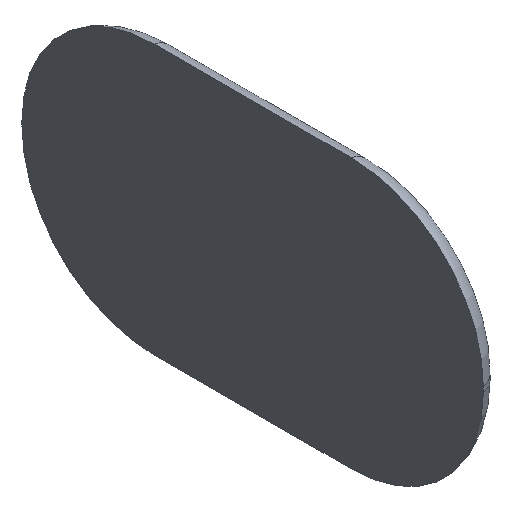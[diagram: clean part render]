
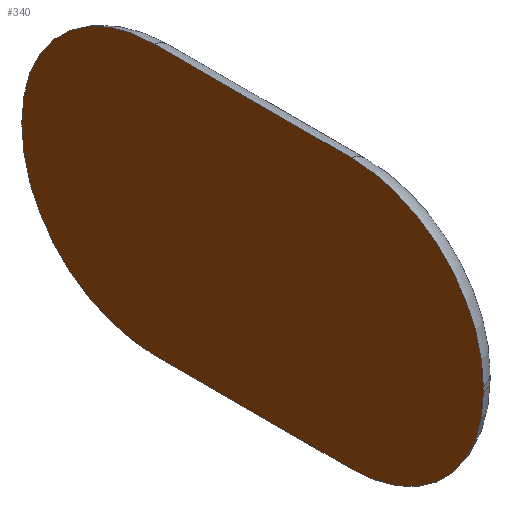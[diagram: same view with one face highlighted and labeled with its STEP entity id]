
A CAD part, isometric view. The second image highlights one B-rep face of the part: STEP entity #340.
In plain terms, the highlighted planar face has unit normal (-1, 0, 0).
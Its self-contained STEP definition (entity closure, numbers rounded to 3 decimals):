
#26=PLANE('',#397);
#45=FACE_OUTER_BOUND('',#65,.T.);
#65=EDGE_LOOP('',(#306,#307,#308,#309,#310,#311,#312,#313));
#82=LINE('',#571,#106);
#83=LINE('',#580,#107);
#84=LINE('',#588,#108);
#85=LINE('',#596,#109);
#106=VECTOR('',#452,1.);
#107=VECTOR('',#465,1.);
#108=VECTOR('',#476,1.);
#109=VECTOR('',#487,1.);
#128=CIRCLE('',#376,5.374);
#131=CIRCLE('',#381,5.374);
#134=CIRCLE('',#386,5.374);
#137=CIRCLE('',#391,5.374);
#162=VERTEX_POINT('',#569);
#163=VERTEX_POINT('',#570);
#164=VERTEX_POINT('',#575);
#165=VERTEX_POINT('',#579);
#166=VERTEX_POINT('',#583);
#167=VERTEX_POINT('',#587);
#168=VERTEX_POINT('',#591);
#169=VERTEX_POINT('',#595);
#198=EDGE_CURVE('',#162,#163,#82,.T.);
#201=EDGE_CURVE('',#164,#162,#128,.T.);
#203=EDGE_CURVE('',#165,#164,#83,.T.);
#205=EDGE_CURVE('',#166,#165,#131,.T.);
#207=EDGE_CURVE('',#167,#166,#84,.T.);
#209=EDGE_CURVE('',#168,#167,#134,.T.);
#211=EDGE_CURVE('',#169,#168,#85,.T.);
#213=EDGE_CURVE('',#163,#169,#137,.T.);
#306=ORIENTED_EDGE('',*,*,#198,.T.);
#307=ORIENTED_EDGE('',*,*,#213,.T.);
#308=ORIENTED_EDGE('',*,*,#211,.T.);
#309=ORIENTED_EDGE('',*,*,#209,.T.);
#310=ORIENTED_EDGE('',*,*,#207,.T.);
#311=ORIENTED_EDGE('',*,*,#205,.T.);
#312=ORIENTED_EDGE('',*,*,#203,.T.);
#313=ORIENTED_EDGE('',*,*,#201,.T.);
#340=ADVANCED_FACE('',(#45),#26,.F.);
#376=AXIS2_PLACEMENT_3D('',#576,#459,#460);
#381=AXIS2_PLACEMENT_3D('',#584,#470,#471);
#386=AXIS2_PLACEMENT_3D('',#592,#481,#482);
#391=AXIS2_PLACEMENT_3D('',#599,#492,#493);
#397=AXIS2_PLACEMENT_3D('',#609,#508,#509);
#452=DIRECTION('',(0.,-1.,0.));
#459=DIRECTION('center_axis',(-1.,0.,0.));
#460=DIRECTION('ref_axis',(0.,0.,1.));
#465=DIRECTION('',(0.,0.,-1.));
#470=DIRECTION('center_axis',(-1.,0.,0.));
#471=DIRECTION('ref_axis',(0.,0.,1.));
#476=DIRECTION('',(0.,1.,0.));
#481=DIRECTION('center_axis',(-1.,0.,0.));
#482=DIRECTION('ref_axis',(0.,0.,1.));
#487=DIRECTION('',(0.,0.,1.));
#492=DIRECTION('center_axis',(-1.,0.,0.));
#493=DIRECTION('ref_axis',(0.,0.,1.));
#508=DIRECTION('center_axis',(1.,0.,0.));
#509=DIRECTION('ref_axis',(0.,0.,1.));
#569=CARTESIAN_POINT('',(40.05,-2.,-17.474));
#570=CARTESIAN_POINT('',(40.05,-10.,-17.474));
#571=CARTESIAN_POINT('',(40.05,-4.,-17.474));
#575=CARTESIAN_POINT('',(40.05,3.374,-12.1));
#576=CARTESIAN_POINT('Origin',(40.05,-2.,-12.1));
#579=CARTESIAN_POINT('',(40.05,3.374,-11.9));
#580=CARTESIAN_POINT('',(40.05,3.374,-11.95));
#583=CARTESIAN_POINT('',(40.05,-2.,-6.526));
#584=CARTESIAN_POINT('Origin',(40.05,-2.,-11.9));
#587=CARTESIAN_POINT('',(40.05,-10.,-6.526));
#588=CARTESIAN_POINT('',(40.05,-8.,-6.526));
#591=CARTESIAN_POINT('',(40.05,-15.374,-11.9));
#592=CARTESIAN_POINT('Origin',(40.05,-10.,-11.9));
#595=CARTESIAN_POINT('',(40.05,-15.374,-12.1));
#596=CARTESIAN_POINT('',(40.05,-15.374,-12.05));
#599=CARTESIAN_POINT('Origin',(40.05,-10.,-12.1));
#609=CARTESIAN_POINT('Origin',(40.05,-80.,-30.));
